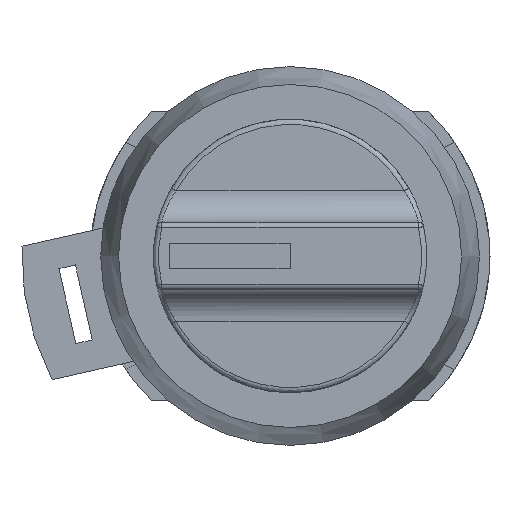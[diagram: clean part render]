
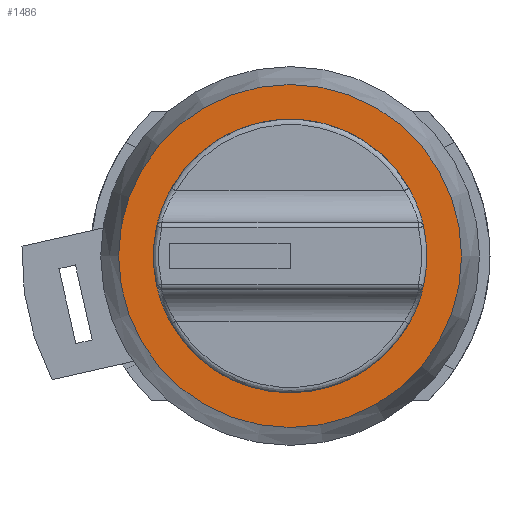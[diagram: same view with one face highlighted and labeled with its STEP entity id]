
A CAD part, left-side view. The second image highlights one B-rep face of the part: STEP entity #1486.
In plain terms, the highlighted planar face has unit normal (-1, 0, 0).
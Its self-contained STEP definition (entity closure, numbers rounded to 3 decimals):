
#1486 = ADVANCED_FACE ( 'NONE', ( #6717, #6709 ), #8466, .T. ) ;
#2401 = EDGE_CURVE ( 'NONE', #15403, #15403, #12946, .T. ) ;
#2420 = EDGE_CURVE ( 'NONE', #15415, #15415, #12969, .T. ) ;
#3348 = ORIENTED_EDGE ( 'NONE', *, *, #2401, .T. ) ;
#3349 = ORIENTED_EDGE ( 'NONE', *, *, #2420, .F. ) ;
#3537 = EDGE_LOOP ( 'NONE', ( #3349 ) ) ;
#3540 = EDGE_LOOP ( 'NONE', ( #3348 ) ) ;
#6709 = FACE_OUTER_BOUND ( 'NONE', #3537, .T. ) ;
#6717 = FACE_BOUND ( 'NONE', #3540, .T. ) ;
#7270 = AXIS2_PLACEMENT_3D ( 'NONE', #8458, #8467, #8468 ) ;
#7728 = AXIS2_PLACEMENT_3D ( 'NONE', #12688, #12696, #12697 ) ;
#7738 = AXIS2_PLACEMENT_3D ( 'NONE', #12761, #12773, #12774 ) ;
#8458 = CARTESIAN_POINT ( 'NONE',  ( 0., 11.15, 0. ) ) ;
#8466 = PLANE ( 'NONE',  #7270 ) ;
#8467 = DIRECTION ( 'NONE',  ( -1., 0., 0. ) ) ;
#8468 = DIRECTION ( 'NONE',  ( 0., 0., 1. ) ) ;
#12688 = CARTESIAN_POINT ( 'NONE',  ( 0., 0., 0. ) ) ;
#12696 = DIRECTION ( 'NONE',  ( 1., 0., 0. ) ) ;
#12697 = DIRECTION ( 'NONE',  ( 0., 0., -1. ) ) ;
#12761 = CARTESIAN_POINT ( 'NONE',  ( 0., 0., 0. ) ) ;
#12773 = DIRECTION ( 'NONE',  ( 1., 0., 0. ) ) ;
#12774 = DIRECTION ( 'NONE',  ( 0., 1., 0. ) ) ;
#12946 = CIRCLE ( 'NONE', #7728, 6. ) ;
#12969 = CIRCLE ( 'NONE', #7738, 16.3 ) ;
#15403 = VERTEX_POINT ( 'NONE', #15404 ) ;
#15404 = CARTESIAN_POINT ( 'NONE',  ( 0., 0., -6. ) ) ;
#15415 = VERTEX_POINT ( 'NONE', #15416 ) ;
#15416 = CARTESIAN_POINT ( 'NONE',  ( 0., 16.3, 0. ) ) ;
